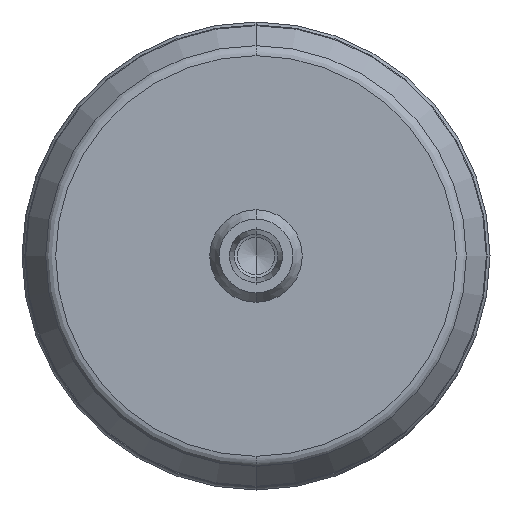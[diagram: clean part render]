
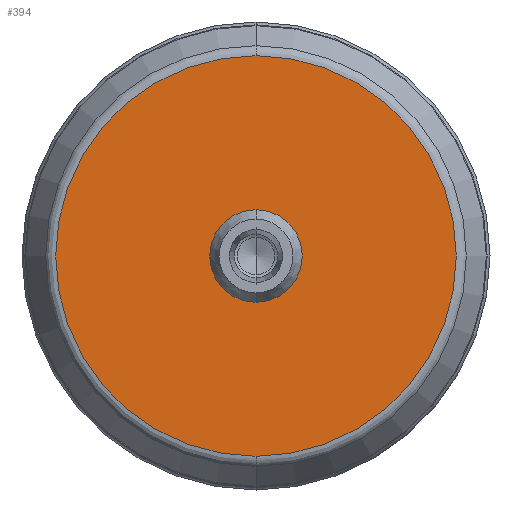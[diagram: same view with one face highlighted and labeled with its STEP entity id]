
A CAD part, front view. The second image highlights one B-rep face of the part: STEP entity #394.
In plain terms, the highlighted planar face has unit normal (0, -1, 0).
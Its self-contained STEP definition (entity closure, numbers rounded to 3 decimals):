
#14 = PLANE ( 'NONE',  #3234 ) ;
#20 = VERTEX_POINT ( 'NONE', #666 ) ;
#281 = VERTEX_POINT ( 'NONE', #5249 ) ;
#394 = ADVANCED_FACE ( 'NONE', ( #1589, #6109 ), #14, .T. ) ;
#447 = AXIS2_PLACEMENT_3D ( 'NONE', #6833, #5949, #9091 ) ;
#666 = CARTESIAN_POINT ( 'NONE',  ( 0., -17., 6. ) ) ;
#851 = DIRECTION ( 'NONE',  ( 0., 0., -1. ) ) ;
#877 = CIRCLE ( 'NONE', #7475, 34.67 ) ;
#931 = CIRCLE ( 'NONE', #447, 6. ) ;
#1121 = CARTESIAN_POINT ( 'NONE',  ( 0., -17., 0. ) ) ;
#1406 = EDGE_CURVE ( 'NONE', #4601, #2671, #877, .T. ) ;
#1408 = DIRECTION ( 'NONE',  ( 0., -1., 0. ) ) ;
#1589 = FACE_OUTER_BOUND ( 'NONE', #7711, .T. ) ;
#2167 = EDGE_CURVE ( 'NONE', #2671, #4601, #3875, .T. ) ;
#2488 = CARTESIAN_POINT ( 'NONE',  ( 0., -17., 0. ) ) ;
#2671 = VERTEX_POINT ( 'NONE', #7133 ) ;
#3234 = AXIS2_PLACEMENT_3D ( 'NONE', #9002, #8412, #851 ) ;
#3477 = DIRECTION ( 'NONE',  ( 0., -1., 0. ) ) ;
#3875 = CIRCLE ( 'NONE', #4788, 34.67 ) ;
#4080 = AXIS2_PLACEMENT_3D ( 'NONE', #1121, #3477, #5736 ) ;
#4601 = VERTEX_POINT ( 'NONE', #9620 ) ;
#4788 = AXIS2_PLACEMENT_3D ( 'NONE', #7412, #1408, #5013 ) ;
#4859 = DIRECTION ( 'NONE',  ( 0., -1., 0. ) ) ;
#5013 = DIRECTION ( 'NONE',  ( 0., 0., -1. ) ) ;
#5147 = ORIENTED_EDGE ( 'NONE', *, *, #1406, .T. ) ;
#5249 = CARTESIAN_POINT ( 'NONE',  ( 0., -17., -6. ) ) ;
#5736 = DIRECTION ( 'NONE',  ( 0., 0., -1. ) ) ;
#5949 = DIRECTION ( 'NONE',  ( 0., -1., 0. ) ) ;
#6109 = FACE_BOUND ( 'NONE', #7096, .T. ) ;
#6304 = ORIENTED_EDGE ( 'NONE', *, *, #7034, .F. ) ;
#6833 = CARTESIAN_POINT ( 'NONE',  ( 0., -17., 0. ) ) ;
#7034 = EDGE_CURVE ( 'NONE', #20, #281, #9238, .T. ) ;
#7096 = EDGE_LOOP ( 'NONE', ( #8101, #6304 ) ) ;
#7133 = CARTESIAN_POINT ( 'NONE',  ( 0., -17., -34.67 ) ) ;
#7412 = CARTESIAN_POINT ( 'NONE',  ( 0., -17., 0. ) ) ;
#7475 = AXIS2_PLACEMENT_3D ( 'NONE', #2488, #4859, #9272 ) ;
#7711 = EDGE_LOOP ( 'NONE', ( #8250, #5147 ) ) ;
#8101 = ORIENTED_EDGE ( 'NONE', *, *, #9604, .F. ) ;
#8250 = ORIENTED_EDGE ( 'NONE', *, *, #2167, .T. ) ;
#8412 = DIRECTION ( 'NONE',  ( 0., -1., 0. ) ) ;
#9002 = CARTESIAN_POINT ( 'NONE',  ( 34.67, -17., 0. ) ) ;
#9091 = DIRECTION ( 'NONE',  ( 0., 0., -1. ) ) ;
#9238 = CIRCLE ( 'NONE', #4080, 6. ) ;
#9272 = DIRECTION ( 'NONE',  ( 0., 0., -1. ) ) ;
#9604 = EDGE_CURVE ( 'NONE', #281, #20, #931, .T. ) ;
#9620 = CARTESIAN_POINT ( 'NONE',  ( 0., -17., 34.67 ) ) ;
